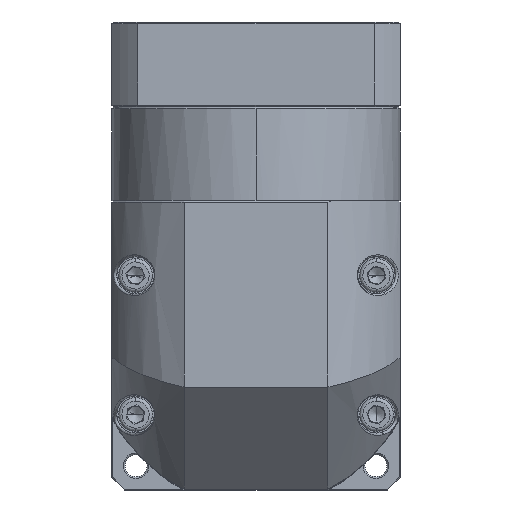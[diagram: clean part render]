
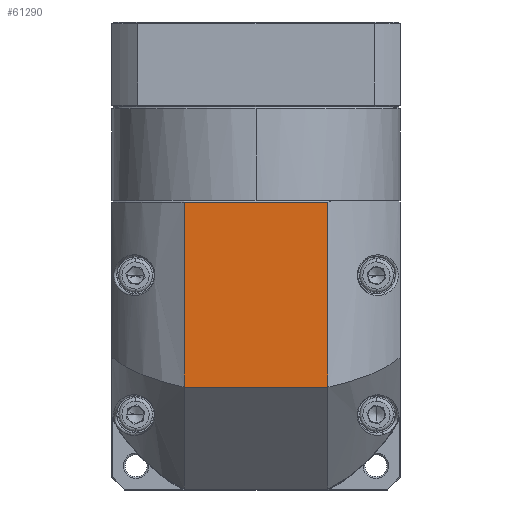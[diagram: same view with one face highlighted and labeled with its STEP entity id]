
A CAD part, top view. The second image highlights one B-rep face of the part: STEP entity #61290.
In plain terms, the highlighted planar face has unit normal (0, 0, 1).
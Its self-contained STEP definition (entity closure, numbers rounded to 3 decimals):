
#1998 = EDGE_LOOP ( 'NONE', ( #61473, #16786, #97351, #127230 ) ) ;
#2946 = CARTESIAN_POINT ( 'NONE',  ( -39.156, 8.639, 68.521 ) ) ;
#6725 = LINE ( 'NONE', #9817, #84207 ) ;
#8162 = CARTESIAN_POINT ( 'NONE',  ( -39.156, -36.861, 68.521 ) ) ;
#9817 = CARTESIAN_POINT ( 'NONE',  ( -81.582, -36.861, 68.521 ) ) ;
#13199 = DIRECTION ( 'NONE',  ( 0., 0., 1. ) ) ;
#15099 = DIRECTION ( 'NONE',  ( -1., 0., 0. ) ) ;
#16007 = CARTESIAN_POINT ( 'NONE',  ( -60.369, 8.639, 68.521 ) ) ;
#16786 = ORIENTED_EDGE ( 'NONE', *, *, #87366, .F. ) ;
#22657 = VERTEX_POINT ( 'NONE', #2946 ) ;
#25808 = EDGE_CURVE ( 'NONE', #101998, #62583, #56446, .T. ) ;
#27994 = EDGE_CURVE ( 'NONE', #101998, #22657, #75617, .T. ) ;
#31058 = DIRECTION ( 'NONE',  ( 0., 1., 0. ) ) ;
#36939 = CARTESIAN_POINT ( 'NONE',  ( -39.156, 63.139, 68.521 ) ) ;
#41290 = CARTESIAN_POINT ( 'NONE',  ( -60.369, 63.139, 68.521 ) ) ;
#43262 = EDGE_CURVE ( 'NONE', #121217, #62583, #6725, .T. ) ;
#46947 = VECTOR ( 'NONE', #73139, 1000. ) ;
#56446 = LINE ( 'NONE', #41290, #61553 ) ;
#58787 = CARTESIAN_POINT ( 'NONE',  ( -81.582, 63.139, 68.521 ) ) ;
#61290 = ADVANCED_FACE ( 'NONE', ( #67077 ), #109061, .T. ) ;
#61465 = LINE ( 'NONE', #16007, #89991 ) ;
#61473 = ORIENTED_EDGE ( 'NONE', *, *, #43262, .F. ) ;
#61553 = VECTOR ( 'NONE', #75164, 1000. ) ;
#62583 = VERTEX_POINT ( 'NONE', #58787 ) ;
#67077 = FACE_OUTER_BOUND ( 'NONE', #1998, .T. ) ;
#73139 = DIRECTION ( 'NONE',  ( 0., -1., 0. ) ) ;
#75164 = DIRECTION ( 'NONE',  ( -1., 0., 0. ) ) ;
#75617 = LINE ( 'NONE', #8162, #46947 ) ;
#78633 = AXIS2_PLACEMENT_3D ( 'NONE', #108598, #13199, #108127 ) ;
#84207 = VECTOR ( 'NONE', #31058, 1000. ) ;
#87366 = EDGE_CURVE ( 'NONE', #22657, #121217, #61465, .T. ) ;
#89991 = VECTOR ( 'NONE', #15099, 1000. ) ;
#97351 = ORIENTED_EDGE ( 'NONE', *, *, #27994, .F. ) ;
#101998 = VERTEX_POINT ( 'NONE', #36939 ) ;
#102700 = CARTESIAN_POINT ( 'NONE',  ( -81.582, 8.639, 68.521 ) ) ;
#108127 = DIRECTION ( 'NONE',  ( 0., 1., 0. ) ) ;
#108598 = CARTESIAN_POINT ( 'NONE',  ( -60.369, 21.139, 68.521 ) ) ;
#109061 = PLANE ( 'NONE',  #78633 ) ;
#121217 = VERTEX_POINT ( 'NONE', #102700 ) ;
#127230 = ORIENTED_EDGE ( 'NONE', *, *, #25808, .T. ) ;
